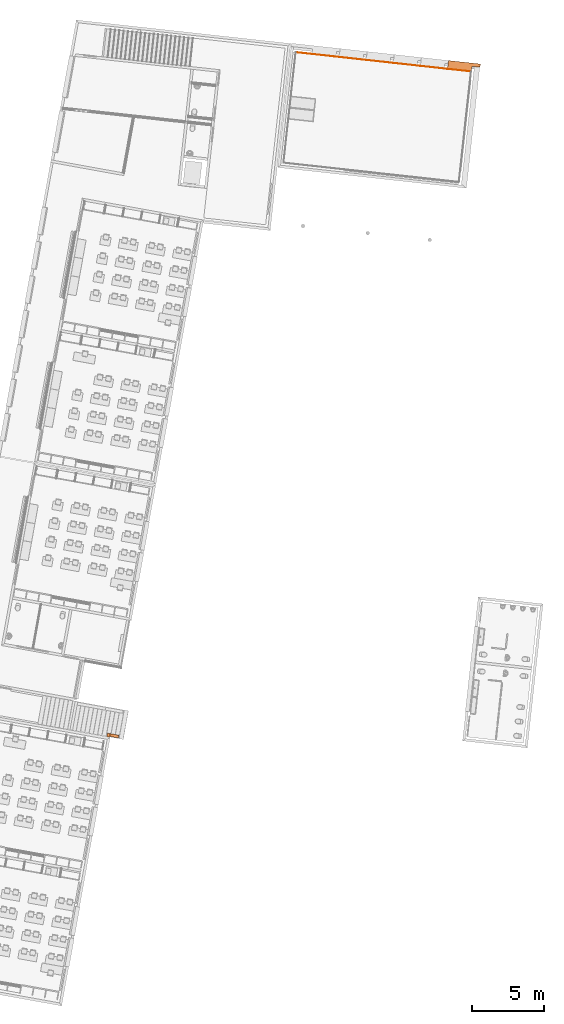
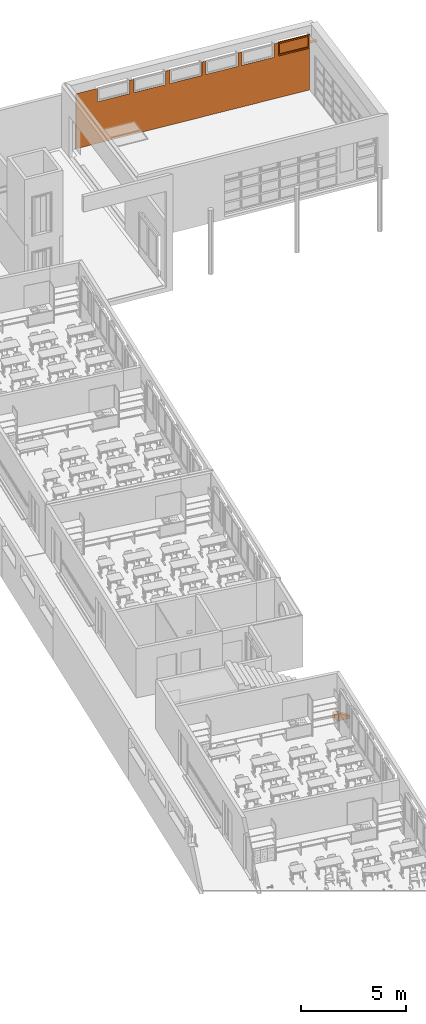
# One storey, part 79 of 79: 4 proxies.
"""IFC2X3 building model written with IfcOpenShell, lengths in metres."""

from ifc_helpers import new_model, entity, si_unit, converted_unit, derived_unit, money_unit, direction, frame, origin_with_axes, place, context, subcontext, project, spatial, polyline, outline, extrude, boolean, open_shell, faceted_brep, surface_model, material, type_object, element, save


model = new_model("IFC2X3")

# Units and contexts
model_context = context("Model", 3, precision=1e-05, world=origin_with_axes(), true_north=direction((0.0, 1.0)))
body_context = subcontext(model_context, "Body", "Model", "MODEL_VIEW")
ifc_project = project(units=[si_unit("LENGTHUNIT", "METRE"), si_unit("AREAUNIT", "SQUARE_METRE"), si_unit("VOLUMEUNIT", "CUBIC_METRE"), converted_unit("PLANEANGLEUNIT", "DEGREE", entity("IfcPlaneAngleMeasure", 0.0174532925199), si_unit("PLANEANGLEUNIT", "RADIAN"), dimensions=[0, 0, 0, 0, 0, 0, 0]), money_unit("CHF"), converted_unit("TIMEUNIT", "Year", entity("IfcTimeMeasure", 31556926.0), si_unit("TIMEUNIT", "SECOND"), dimensions=[0, 0, 1, 0, 0, 0, 0]), si_unit("MASSUNIT", "GRAM", prefix="KILO"), si_unit("THERMODYNAMICTEMPERATUREUNIT", "DEGREE_CELSIUS"), si_unit("LUMINOUSINTENSITYUNIT", "LUMEN"), si_unit("ENERGYUNIT", "JOULE", prefix="MEGA"), derived_unit("THERMALCONDUCTANCEUNIT", [(si_unit("POWERUNIT", "WATT"), 1), (si_unit("LENGTHUNIT", "METRE"), -1), (si_unit("THERMODYNAMICTEMPERATUREUNIT", "KELVIN"), -1)]), derived_unit("SPECIFICHEATCAPACITYUNIT", [(si_unit("ENERGYUNIT", "JOULE"), 1), (si_unit("MASSUNIT", "GRAM", prefix="KILO"), -1), (si_unit("THERMODYNAMICTEMPERATUREUNIT", "KELVIN"), -1)]), derived_unit("MASSDENSITYUNIT", [(si_unit("MASSUNIT", "GRAM", prefix="KILO"), 1), (si_unit("VOLUMEUNIT", "CUBIC_METRE"), -1)])], contexts=[model_context])

# Site, building, storey
site_placement = place(None, frame((0.0, 0.0, 0.0), z_axis=(0.0, 0.0, 1.0), x_axis=(-0.177771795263, -0.984071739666, 0.0)))
site = spatial("IfcSite", under=ifc_project, at=site_placement, Name="Site", CompositionType="ELEMENT")
building_placement = place(site_placement, origin_with_axes())
building = spatial("IfcBuilding", under=site, at=building_placement, Name="Bâtiment", CompositionType="ELEMENT")
storey_placement = place(building_placement, origin_with_axes())
storey = spatial("IfcBuildingStorey", under=building, at=storey_placement, Name="RDC", CompositionType="ELEMENT", Elevation=0.0)

# Proxies
ifc_material_1 = material(Name="_Agglos")
building_element_proxy_type_1 = type_object("IfcBuildingElementProxyType", Name="_Agglos 200", PredefinedType="NOTDEFINED")
proxy_1_placement = place(storey_placement, frame((146.189841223, -148.357150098, -0.15), z_axis=(0.0, 0.0, 1.0), x_axis=(-1.0, 0.0, 0.0)))
element("IfcBuildingElementProxy", 1, at=proxy_1_placement, inside=storey, type_object=building_element_proxy_type_1, material=ifc_material_1, Name="M ext esc-dessous", context=body_context, shape_type="Brep", body=[
    faceted_brep([(0.0, 0.0, 0.0), (0.0, 0.0, 0.45), (0.249798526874, 0.0, 0.45), (0.249798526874, 0.0, 0.0), (0.0, -0.2, 0.45), (0.0, -0.2, 0.0), (0.249798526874, -0.2, 0.45), (0.249798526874, -0.2, 0.0)], [[[0, 1, 2, 3]], [[4, 1, 0, 5]], [[1, 4, 6, 2]], [[6, 7, 3, 2]], [[5, 0, 3, 7]], [[4, 5, 7, 6]]]),
])
proxy_2_placement = place(storey_placement, frame((145.940042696, -148.357150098, -0.15), z_axis=(0.0, 0.0, 1.0), x_axis=(0.0, 1.0, 0.0)))
element("IfcBuildingElementProxy", 2, at=proxy_2_placement, inside=storey, type_object=building_element_proxy_type_1, material=ifc_material_1, Name="M ext esc-dessous", context=body_context, shape_type="Brep", body=[
    faceted_brep([(0.200419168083, 0.0, 0.45), (0.80000074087, 0.0, 0.130223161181), (0.80000074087, 0.0, 0.0), (0.2, 0.0, 0.0), (0.2, 0.0, 0.45), (0.80000074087, -0.2, 0.130223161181), (0.200419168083, -0.2, 0.45), (0.80000074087, -0.2, 0.0), (0.2, -0.2, 0.0), (0.2, -0.2, 0.45)], [[[0, 1, 2, 3, 4]], [[5, 1, 0, 6]], [[1, 5, 7, 2]], [[7, 8, 3, 2]], [[8, 9, 4, 3]], [[6, 0, 4, 9]], [[5, 6, 9, 8, 7]]]),
])
ifc_material_2 = material(Name="Matériau de construction IFC")
building_element_proxy_type_2 = type_object("IfcBuildingElementProxyType", Name="Fenêtre variable 21", PredefinedType="NOTDEFINED")
proxy_3_placement = place(storey_placement, frame((96.1958040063, -131.779230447, 2.42), z_axis=(0.0, 0.0, 1.0), x_axis=(0.0692640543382, -0.997598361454, 0.0)))
element("IfcBuildingElementProxy", 3, at=proxy_3_placement, inside=storey, type_object=building_element_proxy_type_2, material=ifc_material_2, Name="Fen salle-pluri-Nord", context=body_context, shape_type="SurfaceModel", body=[
    surface_model("IfcShellBasedSurfaceModel", [(0.0, 0.284, 0.02), (0.0, 0.284, 0.01), (1.66, 0.284, 0.01), (1.66, 0.284, 0.02), (0.0, 0.0, 1.551028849e-05), (-0.56, 0.0, 1.551028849e-05), (-0.56, -0.225, -0.00789473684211), (1.66, -0.225, -0.00789473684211), (-0.56, -0.225, -0.0378947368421), (1.66, -0.225, -0.0378947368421), (-0.56, -0.21, -0.0228947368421), (1.66, -0.21, -0.0228947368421)], [open_shell([[[0, 1, 2, 3]], [[1, 4, 5, 6, 7, 2]], [[8, 9, 7, 6]], [[10, 11, 9, 8]]])]),
    faceted_brep([(0.075, 0.285, 0.705), (0.075, 0.36, 0.705), (0.0, 0.36, 0.705), (0.0, 0.285, 0.705), (0.075, 0.285, 0.075), (0.075, 0.36, 0.075), (0.0, 0.36, 0.075), (0.0, 0.285, 0.075)], [[[0, 1, 2, 3]], [[4, 5, 1, 0]], [[1, 5, 6, 2]], [[3, 2, 6, 7]], [[0, 3, 7, 4]], [[7, 6, 5, 4]]]),
    faceted_brep([(1.585, 0.285, 0.075), (1.585, 0.36, 0.075), (1.66, 0.36, 0.075), (1.66, 0.285, 0.075), (1.585, 0.285, 0.705), (1.585, 0.36, 0.705), (1.66, 0.36, 0.705), (1.66, 0.285, 0.705)], [[[0, 1, 2, 3]], [[4, 5, 1, 0]], [[1, 5, 6, 2]], [[3, 2, 6, 7]], [[0, 3, 7, 4]], [[7, 6, 5, 4]]]),
    faceted_brep([(0.075, 0.285, 0.075), (0.075, 0.36, 0.075), (0.0, 0.36, 0.075), (0.0, 0.285, 0.075), (1.585, 0.285, 0.075), (1.585, 0.36, 0.075), (1.66, 0.36, 0.075), (1.66, 0.36, 0.0), (0.0, 0.36, 0.0), (0.0, 0.285, 0.0), (1.66, 0.285, 0.0), (1.66, 0.285, 0.075)], [[[0, 1, 2, 3]], [[4, 5, 1, 0]], [[1, 5, 6, 7, 8, 2]], [[3, 2, 8, 9]], [[0, 3, 9, 10, 11, 4]], [[11, 6, 5, 4]], [[10, 7, 6, 11]], [[9, 8, 7, 10]]]),
    faceted_brep([(1.585, 0.285, 0.705), (1.585, 0.36, 0.705), (1.66, 0.36, 0.705), (1.66, 0.285, 0.705), (0.075, 0.285, 0.705), (0.075, 0.36, 0.705), (0.0, 0.36, 0.705), (0.0, 0.36, 0.78), (1.66, 0.36, 0.78), (1.66, 0.285, 0.78), (0.0, 0.285, 0.78), (0.0, 0.285, 0.705)], [[[0, 1, 2, 3]], [[4, 5, 1, 0]], [[1, 5, 6, 7, 8, 2]], [[3, 2, 8, 9]], [[0, 3, 9, 10, 11, 4]], [[11, 6, 5, 4]], [[10, 7, 6, 11]], [[9, 8, 7, 10]]]),
    surface_model("IfcShellBasedSurfaceModel", [(0.075, 0.285, 0.075), (1.585, 0.285, 0.075), (1.585, 0.285, 0.705), (0.075, 0.285, 0.705)], [open_shell([[[0, 1, 2, 3]]])]),
    surface_model("IfcShellBasedSurfaceModel", [(0.075, 0.305, 0.075), (0.075, 0.305, 0.705), (1.585, 0.305, 0.705), (1.585, 0.305, 0.075)], [open_shell([[[0, 1, 2, 3]]])]),
])
ifc_material_3 = material(Name="_BA banché RAL9007")
building_element_proxy_type_3 = type_object("IfcBuildingElementProxyType", Name="_BA banché RAL9007 5", PredefinedType="NOTDEFINED")
proxy_4_placement = place(storey_placement, frame((96.5627258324, -131.779817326, 0.0), z_axis=(0.0, 0.0, 1.0), x_axis=(0.069264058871, -0.99759836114, 0.0)))
element("IfcBuildingElementProxy", 4, at=proxy_4_placement, inside=storey, type_object=building_element_proxy_type_3, material=ifc_material_3, Name="Peinture murale", context=body_context, shape_type="CSG", body=[
    boolean("DIFFERENCE", boolean("DIFFERENCE", boolean("DIFFERENCE", boolean("DIFFERENCE", boolean("DIFFERENCE", boolean("DIFFERENCE", extrude(outline(polyline([(-0.0050000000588, -0.005), (12.1725152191, -0.00500000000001), (12.1675152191, 0.0), (0.0, 0.0), (-0.0050000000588, -0.005)])), origin_with_axes(), (0.0, 0.0, 1.0), 3.2), faceted_brep([(1.63400003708, -0.005, 3.2), (1.63400003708, 0.0, 3.2), (0.0, 0.0, 3.2), (-0.00500000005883, -0.005, 3.2), (1.63400003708, 0.0, 2.42), (1.63400003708, -0.005, 2.42), (0.0, 0.0, 2.42), (-0.00500000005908, -0.00499999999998, 2.42)], [[[0, 1, 2, 3]], [[4, 1, 0, 5]], [[4, 6, 2, 1]], [[6, 7, 3, 2]], [[5, 0, 3, 7]], [[6, 4, 5, 7]]])), faceted_brep([(1.85400003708, 0.0, 3.2), (1.85400003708, -0.00500000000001, 3.2), (3.51400003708, -0.00499999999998, 3.2), (3.51400003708, 0.0, 3.2), (1.85400003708, 0.0, 2.42), (1.85400003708, -0.00500000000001, 2.42), (3.51400003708, -0.00499999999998, 2.42), (3.51400003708, 0.0, 2.42)], [[[0, 1, 2, 3]], [[1, 0, 4, 5]], [[6, 2, 1, 5]], [[7, 3, 2, 6]], [[4, 0, 3, 7]], [[4, 7, 6, 5]]])), faceted_brep([(3.73400003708, 0.0, 3.2), (3.73400003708, -0.00500000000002, 3.2), (5.39400003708, -0.005, 3.2), (5.39400003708, 0.0, 3.2), (3.73400003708, 0.0, 2.42), (3.73400003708, -0.00500000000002, 2.42), (5.39400003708, -0.005, 2.42), (5.39400003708, 0.0, 2.42)], [[[0, 1, 2, 3]], [[1, 0, 4, 5]], [[6, 2, 1, 5]], [[7, 3, 2, 6]], [[4, 0, 3, 7]], [[4, 7, 6, 5]]])), faceted_brep([(5.61400003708, 0.0, 3.2), (5.61400003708, -0.00500000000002, 3.2), (7.27400003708, -0.005, 3.2), (7.27400003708, 0.0, 3.2), (5.61400003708, 0.0, 2.42), (5.61400003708, -0.00500000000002, 2.42), (7.27400003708, -0.005, 2.42), (7.27400003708, 0.0, 2.42)], [[[0, 1, 2, 3]], [[1, 0, 4, 5]], [[6, 2, 1, 5]], [[7, 3, 2, 6]], [[4, 0, 3, 7]], [[4, 7, 6, 5]]])), faceted_brep([(7.49400003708, 0.0, 3.2), (7.49400003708, -0.00500000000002, 3.2), (9.15400003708, -0.005, 3.2), (9.15400003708, 0.0, 3.2), (7.49400003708, 0.0, 2.42), (7.49400003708, -0.00500000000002, 2.42), (9.15400003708, -0.005, 2.42), (9.15400003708, 0.0, 2.42)], [[[0, 1, 2, 3]], [[1, 0, 4, 5]], [[6, 2, 1, 5]], [[7, 3, 2, 6]], [[4, 0, 3, 7]], [[4, 7, 6, 5]]])), faceted_brep([(9.3740000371, 0.0, 3.2), (9.3740000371, -0.00500000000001, 3.2), (11.0340000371, -0.00500000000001, 3.2), (11.0340000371, 0.0, 3.2), (9.3740000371, 0.0, 2.42), (9.3740000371, -0.00500000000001, 2.42), (11.0340000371, -0.00500000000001, 2.42), (11.0340000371, 0.0, 2.42)], [[[0, 1, 2, 3]], [[1, 0, 4, 5]], [[6, 2, 1, 5]], [[7, 3, 2, 6]], [[4, 0, 3, 7]], [[4, 7, 6, 5]]])),
])

save(model, "model.ifc")
